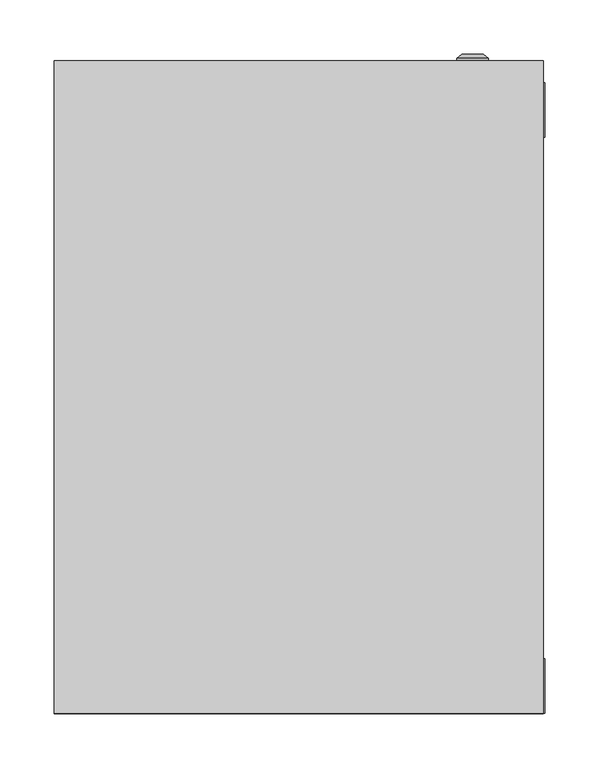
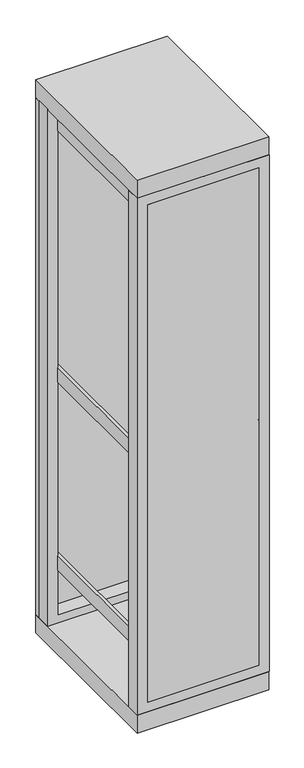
"""IFC4 building model written with IfcOpenShell, lengths in millimetres: proxy geometry, ВРУ-1 : ВРУ-1_2000х450х600."""

from ifc_helpers import new_model, si_unit, frame, origin, origin_with_axes, place, context, project, spatial, polyline, circle_curve, outline, extrude, source, transform, mapped, element, save
from ifc_brep_helpers import plane_surface, cylinder_surface, revolved_surface, advanced_brep


def electrical_equipment_20200724(model_context):
    return source(origin(), model_context, "Body", "SolidModel", [
        extrude(outline(polyline([(190.8707865, 0.0), (-188.3426966, 0.0), (-188.3426966, 10.0), (190.8707865, 10.0), (190.8707865, 0.0)])), frame((0.0, 0.0, 99.1378449), z_axis=(0.0, 0.0, 1.0), x_axis=(1.0, 0.0, 0.0)), (0.0, 0.0, 1.0), 1799.6160511),
        extrude(outline(polyline([(-180.8707865, 125.9831461), (-140.8707865, 125.9831461), (-140.8707865, 93.1179775), (-143.8707865, 93.1179775), (-143.8707865, 122.9831461), (-177.8707865, 122.9831461), (-177.8707865, 93.1179775), (-180.8707865, 93.1179775), (-180.8707865, 125.9831461)])), frame((0.0, 0.0, 189.6067416), z_axis=(0.0, 0.0, 1.0), x_axis=(1.0, 0.0, 0.0)), (0.0, 0.0, 1.0), 1745.3932584),
        extrude(outline(polyline([(140.8707865, 125.9831461), (180.8707865, 125.9831461), (180.8707865, 93.1179775), (177.8707865, 93.1179775), (177.8707865, 122.9831461), (143.8707865, 122.9831461), (143.8707865, 93.1179775), (140.8707865, 93.1179775), (140.8707865, 125.9831461)])), frame((0.0, 0.0, 189.6067416), z_axis=(0.0, 0.0, 1.0), x_axis=(1.0, 0.0, 0.0)), (0.0, 0.0, 1.0), 1745.3932584),
        extrude(outline(polyline([(-180.8707865, 10.0), (-190.8707865, 10.0), (-190.8707865, 580.0), (-180.8707865, 580.0), (-180.8707865, 10.0)])), frame((0.0, 0.0, 1845.5966059), z_axis=(0.0, 0.0, 1.0), x_axis=(1.0, 0.0, 0.0)), (0.0, 0.0, 1.0), 53.0898876),
        extrude(outline(polyline([(190.8707865, 10.0), (180.8707865, 10.0), (180.8707865, 580.0), (190.8707865, 580.0), (190.8707865, 10.0)])), frame((0.0, 0.0, 1845.5966059), z_axis=(0.0, 0.0, 1.0), x_axis=(1.0, 0.0, 0.0)), (0.0, 0.0, 1.0), 53.0898876),
        extrude(outline(polyline([(-180.8707865, 10.0), (-190.8707865, 10.0), (-190.8707865, 580.0), (-180.8707865, 580.0), (-180.8707865, 10.0)])), frame((0.0, 0.0, 255.5966059), z_axis=(0.0, 0.0, 1.0), x_axis=(1.0, 0.0, 0.0)), (0.0, 0.0, 1.0), 53.0898876),
        extrude(outline(polyline([(190.8707865, 10.0), (180.8707865, 10.0), (180.8707865, 580.0), (190.8707865, 580.0), (190.8707865, 10.0)])), frame((0.0, 0.0, 255.5966059), z_axis=(0.0, 0.0, 1.0), x_axis=(1.0, 0.0, 0.0)), (0.0, 0.0, 1.0), 53.0898876),
        extrude(outline(polyline([(-180.8707865, 10.0), (-190.8707865, 10.0), (-190.8707865, 580.0), (-180.8707865, 580.0), (-180.8707865, 10.0)])), frame((0.0, 0.0, 935.5966059), z_axis=(0.0, 0.0, 1.0), x_axis=(1.0, 0.0, 0.0)), (0.0, 0.0, 1.0), 53.0898876),
        extrude(outline(polyline([(190.8707865, 0.0), (180.8707865, 0.0), (180.8707865, 580.0), (190.8707865, 580.0), (190.8707865, 0.0)])), frame((0.0, 0.0, 935.5966059), z_axis=(0.0, 0.0, 1.0), x_axis=(1.0, 0.0, 0.0)), (0.0, 0.0, 1.0), 53.0898876),
        extrude(outline(polyline([(1934.1471543, -225.0), (65.0187804, -225.0), (65.0187804, 226.2640449), (1934.1471543, 226.2640449), (1934.1471543, -225.0)]), holes=[polyline([(99.1378449, 190.8707865), (99.1378449, -188.3426966), (1898.7538959, -188.3426966), (1898.7538959, 190.8707865), (99.1378449, 190.8707865)])]), frame((0.0, 0.0, 0.0), z_axis=(0.0, 1.0, 0.0), x_axis=(0.0, 0.0, 1.0)), (0.0, 0.0, 1.0), 50.0),
        extrude(outline(polyline([(1935.0, -225.0), (65.0187804, -225.0), (65.0187804, 226.2640449), (1935.0, 226.2640449), (1935.0, -225.0)]), holes=[polyline([(93.3701084, 190.8707865), (93.3701084, -188.3426966), (1892.9861595, -188.3426966), (1892.9861595, 190.8707865), (93.3701084, 190.8707865)])]), frame((0.0, 530.0, 0.0), z_axis=(0.0, 1.0, 0.0), x_axis=(0.0, 0.0, 1.0)), (0.0, 0.0, 1.0), 50.0),
        extrude(outline(polyline([(225.0067809, 600.0), (225.0067809, 0.0), (-225.0, 0.0), (-225.0, 600.0), (225.0067809, 600.0)])), frame((0.0, 0.0, 1935.0), z_axis=(0.0, 0.0, 1.0), x_axis=(1.0, 0.0, 0.0)), (0.0, 0.0, 1.0), 65.0),
        advanced_brep(
        [(145.669873, 600.0, 515.0), (174.330127, 600.0, 515.0), (160.0, 600.0, 515.0), (145.669873, 602.366592, 515.0), (174.330127, 602.366592, 515.0), (150.0, 606.0, 515.0), (170.0, 606.0, 515.0), (158.1080471, 606.0, 515.0), (161.8919529, 606.0, 515.0), (158.1080471, 604.9822294, 515.0), (161.8919529, 604.9822294, 515.0), (160.0, 604.9822294, 515.0)],
        [
            (0, 1, circle_curve(frame((160.0, 600.0, 515.0), z_axis=(0.0, -1.0, 0.0), x_axis=(1.0, 0.0, 0.0)), 14.330127)),
            (1, 2),
            (2, 0),
            (1, 0, circle_curve(frame((160.0, 600.0, 515.0), z_axis=(0.0, -1.0, 0.0), x_axis=(1.0, 0.0, 0.0)), 14.330127)),
            (3, 4, circle_curve(frame((160.0, 602.366592, 515.0), z_axis=(0.0, -1.0, 0.0), x_axis=(1.0, 0.0, 0.0)), 14.330127)),
            (4, 1),
            (0, 3),
            (4, 3, circle_curve(frame((160.0, 602.366592, 515.0), z_axis=(0.0, -1.0, 0.0), x_axis=(1.0, 0.0, 0.0)), 14.330127)),
            (5, 6, circle_curve(frame((160.0, 606.0, 515.0), z_axis=(0.0, -1.0, 0.0), x_axis=(1.0, 0.0, 0.0)), 10.0)),
            (6, 4),
            (3, 5),
            (6, 5, circle_curve(frame((160.0, 606.0, 515.0), z_axis=(0.0, -1.0, 0.0), x_axis=(1.0, 0.0, 0.0)), 10.0)),
            (7, 8, circle_curve(frame((160.0, 606.0, 515.0), z_axis=(0.0, -1.0, 0.0), x_axis=(1.0, 0.0, 0.0)), 1.8919529)),
            (8, 6),
            (5, 7),
            (8, 7, circle_curve(frame((160.0, 606.0, 515.0), z_axis=(0.0, -1.0, 0.0), x_axis=(1.0, 0.0, 0.0)), 1.8919529)),
            (9, 10, circle_curve(frame((160.0, 604.9822294, 515.0), z_axis=(0.0, -1.0, 0.0), x_axis=(1.0, 0.0, 0.0)), 1.8919529)),
            (10, 8),
            (7, 9),
            (10, 9, circle_curve(frame((160.0, 604.9822294, 515.0), z_axis=(0.0, -1.0, 0.0), x_axis=(1.0, 0.0, 0.0)), 1.8919529)),
            (11, 10),
            (9, 11),
        ],
        [
            plane_surface(frame((160.0, 600.0, 515.0), z_axis=(0.0, -1.0, 0.0), x_axis=(1.0, 0.0, 0.0))),
            cylinder_surface(frame((160.0, 613.1348851, 515.0), z_axis=(0.0, 1.0, 0.0), x_axis=(1.0, 0.0, 0.0)), 14.330127),
            revolved_surface(polyline([(174.330127, 602.366592, 515.0), (170.0, 606.0, 515.0)]), (160.0, 613.1348851, 515.0), (0.0, 1.0, 0.0)),
            plane_surface(frame((160.0, 606.0, 515.0), z_axis=(0.0, 1.0, 0.0), x_axis=(1.0, 0.0, 0.0))),
            revolved_surface(polyline([(161.8919529, 606.0, 515.0), (161.8919529, 604.9822294, 515.0)]), (160.0, 613.1348851, 515.0), (0.0, 1.0, 0.0)),
            plane_surface(frame((160.0, 604.9822294, 515.0), z_axis=(0.0, 1.0, 0.0), x_axis=(1.0, 0.0, 0.0))),
        ],
        [
            (0, [[1, 2, 3]]),
            (0, [[4, -3, -2]]),
            (1, [[5, 6, -1, 7]]),
            (1, [[8, -7, -4, -6]]),
            (2, [[9, 10, -5, 11]]),
            (2, [[12, -11, -8, -10]]),
            (3, [[13, 14, -9, 15]]),
            (3, [[16, -15, -12, -14]]),
            (4, [[17, 18, -13, 19]]),
            (4, [[20, -19, -16, -18]]),
            (5, [[21, -17, 22]]),
            (5, [[-22, -20, -21]]),
        ],
    ),
        advanced_brep(
        [(145.669873, 600.0, 1485.0), (174.330127, 600.0, 1485.0), (160.0, 600.0, 1485.0), (145.669873, 602.366592, 1485.0), (174.330127, 602.366592, 1485.0), (150.0, 606.0, 1485.0), (170.0, 606.0, 1485.0), (158.1080471, 606.0, 1485.0), (161.8919529, 606.0, 1485.0), (158.1080471, 604.9822294, 1485.0), (161.8919529, 604.9822294, 1485.0), (160.0, 604.9822294, 1485.0)],
        [
            (0, 1, circle_curve(frame((160.0, 600.0, 1485.0), z_axis=(0.0, -1.0, 0.0), x_axis=(1.0, 0.0, 0.0)), 14.330127)),
            (1, 2),
            (2, 0),
            (1, 0, circle_curve(frame((160.0, 600.0, 1485.0), z_axis=(0.0, -1.0, 0.0), x_axis=(1.0, 0.0, 0.0)), 14.330127)),
            (3, 4, circle_curve(frame((160.0, 602.366592, 1485.0), z_axis=(0.0, -1.0, 0.0), x_axis=(1.0, 0.0, 0.0)), 14.330127)),
            (4, 1),
            (0, 3),
            (4, 3, circle_curve(frame((160.0, 602.366592, 1485.0), z_axis=(0.0, -1.0, 0.0), x_axis=(1.0, 0.0, 0.0)), 14.330127)),
            (5, 6, circle_curve(frame((160.0, 606.0, 1485.0), z_axis=(0.0, -1.0, 0.0), x_axis=(1.0, 0.0, 0.0)), 10.0)),
            (6, 4),
            (3, 5),
            (6, 5, circle_curve(frame((160.0, 606.0, 1485.0), z_axis=(0.0, -1.0, 0.0), x_axis=(1.0, 0.0, 0.0)), 10.0)),
            (7, 8, circle_curve(frame((160.0, 606.0, 1485.0), z_axis=(0.0, -1.0, 0.0), x_axis=(1.0, 0.0, 0.0)), 1.8919529)),
            (8, 6),
            (5, 7),
            (8, 7, circle_curve(frame((160.0, 606.0, 1485.0), z_axis=(0.0, -1.0, 0.0), x_axis=(1.0, 0.0, 0.0)), 1.8919529)),
            (9, 10, circle_curve(frame((160.0, 604.9822294, 1485.0), z_axis=(0.0, -1.0, 0.0), x_axis=(1.0, 0.0, 0.0)), 1.8919529)),
            (10, 8),
            (7, 9),
            (10, 9, circle_curve(frame((160.0, 604.9822294, 1485.0), z_axis=(0.0, -1.0, 0.0), x_axis=(1.0, 0.0, 0.0)), 1.8919529)),
            (11, 10),
            (9, 11),
        ],
        [
            plane_surface(frame((160.0, 600.0, 1485.0), z_axis=(0.0, -1.0, 0.0), x_axis=(1.0, 0.0, 0.0))),
            cylinder_surface(frame((160.0, 613.1348851, 1485.0), z_axis=(0.0, 1.0, 0.0), x_axis=(1.0, 0.0, 0.0)), 14.330127),
            revolved_surface(polyline([(174.330127, 602.366592, 1485.0), (170.0, 606.0, 1485.0)]), (160.0, 613.1348851, 1485.0), (0.0, 1.0, 0.0)),
            plane_surface(frame((160.0, 606.0, 1485.0), z_axis=(0.0, 1.0, 0.0), x_axis=(1.0, 0.0, 0.0))),
            revolved_surface(polyline([(161.8919529, 606.0, 1485.0), (161.8919529, 604.9822294, 1485.0)]), (160.0, 613.1348851, 1485.0), (0.0, 1.0, 0.0)),
            plane_surface(frame((160.0, 604.9822294, 1485.0), z_axis=(0.0, 1.0, 0.0), x_axis=(1.0, 0.0, 0.0))),
        ],
        [
            (0, [[1, 2, 3]]),
            (0, [[4, -3, -2]]),
            (1, [[5, 6, -1, 7]]),
            (1, [[8, -7, -4, -6]]),
            (2, [[9, 10, -5, 11]]),
            (2, [[12, -11, -8, -10]]),
            (3, [[13, 14, -9, 15]]),
            (3, [[16, -15, -12, -14]]),
            (4, [[17, 18, -13, 19]]),
            (4, [[20, -19, -16, -18]]),
            (5, [[21, -17, 22]]),
            (5, [[-22, -20, -21]]),
        ],
    ),
        extrude(outline(polyline([(225.0067809, 600.0), (225.0067809, 0.0), (-225.0, 0.0), (-225.0, 600.0), (225.0067809, 600.0)])), origin_with_axes(), (0.0, 0.0, 1.0), 65.0187804),
        extrude(outline(polyline([(225.0, 580.0), (-225.0, 580.0), (-225.0, 600.0), (225.0, 600.0), (225.0, 580.0)])), frame((0.0, 0.0, 65.0187804), z_axis=(0.0, 0.0, 1.0), x_axis=(1.0, 0.0, 0.0)), (0.0, 0.0, 1.0), 1869.9812196),
    ])


if __name__ == "__main__":
    model = new_model("IFC4")
    model_context = context("Model", 3, world=origin())
    ifc_project = project(units=[si_unit("LENGTHUNIT", "METRE", prefix="MILLI")], contexts=[model_context])
    site = spatial("IfcSite", under=ifc_project)
    building = spatial("IfcBuilding", under=site)
    placement = place(None, origin())
    electrical_equipment_shape = electrical_equipment_20200724(model_context)
    element("IfcBuildingElementProxy", 1, Name="ВРУ-1 : ВРУ-1_2000х450х600", ObjectType="ВРУ-1 : ВРУ-1_2000х450х600", at=placement, inside=building, context=model_context, shape_type="MappedRepresentation", body=[
        mapped(electrical_equipment_shape, transform((0.0, 0.0, 0.0), x_axis=(1.0, 0.0, 0.0), y_axis=(0.0, 1.0, 0.0), z_axis=(0.0, 0.0, 1.0))),
    ])
    save(model, "model.ifc")
